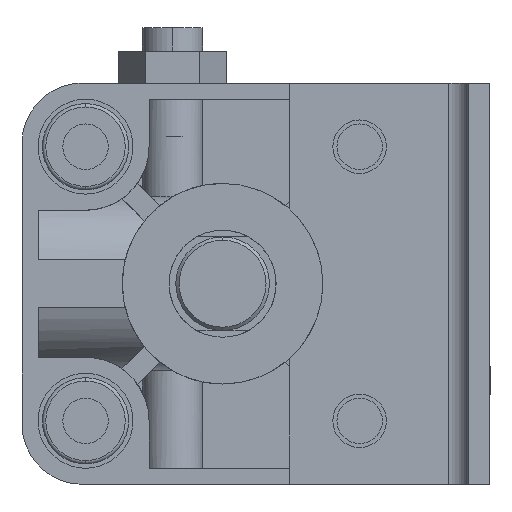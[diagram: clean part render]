
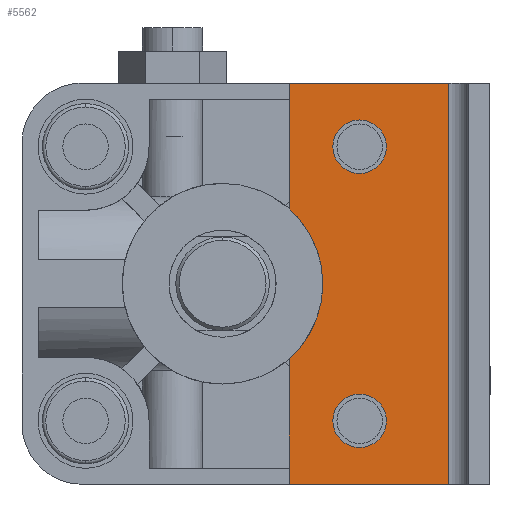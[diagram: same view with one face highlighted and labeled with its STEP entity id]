
A CAD part, left-side view. The second image highlights one B-rep face of the part: STEP entity #5562.
In plain terms, the highlighted planar face has unit normal (-1, 0, 0) as drawn and (0, 0, 1) by its records, which use the part's own axes.
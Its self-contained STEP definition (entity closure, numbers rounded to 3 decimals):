
#53 = CARTESIAN_POINT ( 'NONE',  ( -30., -33.8, 0. ) ) ;
#101 = EDGE_CURVE ( 'NONE', #4875, #2804, #6808, .T. ) ;
#510 = CARTESIAN_POINT ( 'NONE',  ( -11.18, -10., 0. ) ) ;
#517 = CARTESIAN_POINT ( 'NONE',  ( -30., -33.8, 0. ) ) ;
#560 = ORIENTED_EDGE ( 'NONE', *, *, #2899, .T. ) ;
#629 = ORIENTED_EDGE ( 'NONE', *, *, #4731, .T. ) ;
#644 = VECTOR ( 'NONE', #3964, 1000. ) ;
#752 = AXIS2_PLACEMENT_3D ( 'NONE', #2877, #6826, #5335 ) ;
#830 = VECTOR ( 'NONE', #6050, 1000. ) ;
#886 = DIRECTION ( 'NONE',  ( 1., 0., 0. ) ) ;
#927 = CARTESIAN_POINT ( 'NONE',  ( -20.5, -20.5, 0. ) ) ;
#948 = CARTESIAN_POINT ( 'NONE',  ( 30., -25., 0. ) ) ;
#985 = AXIS2_PLACEMENT_3D ( 'NONE', #4744, #5299, #5156 ) ;
#1109 = EDGE_CURVE ( 'NONE', #6462, #5434, #6154, .T. ) ;
#1360 = DIRECTION ( 'NONE',  ( 0., 0., 1. ) ) ;
#1429 = DIRECTION ( 'NONE',  ( -1., 0., 0. ) ) ;
#1640 = VERTEX_POINT ( 'NONE', #8406 ) ;
#1643 = DIRECTION ( 'NONE',  ( 1., 0., 0. ) ) ;
#1765 = LINE ( 'NONE', #3088, #3114 ) ;
#2164 = ORIENTED_EDGE ( 'NONE', *, *, #7354, .T. ) ;
#2347 = DIRECTION ( 'NONE',  ( -1., 0., 0. ) ) ;
#2360 = EDGE_CURVE ( 'NONE', #3686, #7482, #7573, .T. ) ;
#2367 = CIRCLE ( 'NONE', #752, 15. ) ;
#2400 = VERTEX_POINT ( 'NONE', #510 ) ;
#2599 = CARTESIAN_POINT ( 'NONE',  ( 16.5, -20.5, 0. ) ) ;
#2736 = CIRCLE ( 'NONE', #6934, 4. ) ;
#2804 = VERTEX_POINT ( 'NONE', #2599 ) ;
#2877 = CARTESIAN_POINT ( 'NONE',  ( 0., 0., 0. ) ) ;
#2899 = EDGE_CURVE ( 'NONE', #2400, #5434, #7262, .T. ) ;
#3088 = CARTESIAN_POINT ( 'NONE',  ( 0., -10., 0. ) ) ;
#3114 = VECTOR ( 'NONE', #3663, 1000. ) ;
#3352 = VERTEX_POINT ( 'NONE', #5635 ) ;
#3384 = CARTESIAN_POINT ( 'NONE',  ( 0., -33.8, 0. ) ) ;
#3431 = CARTESIAN_POINT ( 'NONE',  ( -30., -10., 0. ) ) ;
#3657 = EDGE_LOOP ( 'NONE', ( #6476, #5548 ) ) ;
#3663 = DIRECTION ( 'NONE',  ( -1., 0., 0. ) ) ;
#3686 = VERTEX_POINT ( 'NONE', #8546 ) ;
#3964 = DIRECTION ( 'NONE',  ( 0., 1., 0. ) ) ;
#4095 = EDGE_LOOP ( 'NONE', ( #629, #560, #5280, #4348, #8413, #2164 ) ) ;
#4318 = CARTESIAN_POINT ( 'NONE',  ( 30., -33.8, 0. ) ) ;
#4348 = ORIENTED_EDGE ( 'NONE', *, *, #8765, .F. ) ;
#4459 = FACE_BOUND ( 'NONE', #9001, .T. ) ;
#4731 = EDGE_CURVE ( 'NONE', #1640, #2400, #2367, .T. ) ;
#4744 = CARTESIAN_POINT ( 'NONE',  ( 20.5, -20.5, 0. ) ) ;
#4807 = DIRECTION ( 'NONE',  ( 0., 0., 1. ) ) ;
#4875 = VERTEX_POINT ( 'NONE', #5186 ) ;
#4967 = LINE ( 'NONE', #3384, #6794 ) ;
#5109 = EDGE_CURVE ( 'NONE', #2804, #4875, #2736, .T. ) ;
#5156 = DIRECTION ( 'NONE',  ( 1., 0., 0. ) ) ;
#5186 = CARTESIAN_POINT ( 'NONE',  ( 24.5, -20.5, 0. ) ) ;
#5279 = CARTESIAN_POINT ( 'NONE',  ( -20.5, -20.5, 0. ) ) ;
#5280 = ORIENTED_EDGE ( 'NONE', *, *, #1109, .F. ) ;
#5299 = DIRECTION ( 'NONE',  ( 0., 0., 1. ) ) ;
#5311 = FACE_OUTER_BOUND ( 'NONE', #4095, .T. ) ;
#5335 = DIRECTION ( 'NONE',  ( 1., 0., 0. ) ) ;
#5424 = CARTESIAN_POINT ( 'NONE',  ( -30., -25., 0. ) ) ;
#5434 = VERTEX_POINT ( 'NONE', #3431 ) ;
#5544 = EDGE_CURVE ( 'NONE', #3352, #7679, #8373, .T. ) ;
#5548 = ORIENTED_EDGE ( 'NONE', *, *, #5109, .F. ) ;
#5562 = ADVANCED_FACE ( 'NONE', ( #4459, #7926, #5311 ), #8524, .T. ) ;
#5635 = CARTESIAN_POINT ( 'NONE',  ( 30., -10., 0. ) ) ;
#5962 = CARTESIAN_POINT ( 'NONE',  ( 0., -10., 0. ) ) ;
#5972 = AXIS2_PLACEMENT_3D ( 'NONE', #5279, #1360, #6482 ) ;
#6050 = DIRECTION ( 'NONE',  ( 0., -1., 0. ) ) ;
#6154 = LINE ( 'NONE', #5424, #644 ) ;
#6164 = DIRECTION ( 'NONE',  ( 0., 0., 1. ) ) ;
#6325 = CARTESIAN_POINT ( 'NONE',  ( -16.5, -20.5, 0. ) ) ;
#6417 = VECTOR ( 'NONE', #1429, 1000. ) ;
#6462 = VERTEX_POINT ( 'NONE', #53 ) ;
#6476 = ORIENTED_EDGE ( 'NONE', *, *, #101, .F. ) ;
#6482 = DIRECTION ( 'NONE',  ( 1., 0., 0. ) ) ;
#6653 = DIRECTION ( 'NONE',  ( 0., 0., 1. ) ) ;
#6690 = AXIS2_PLACEMENT_3D ( 'NONE', #927, #6164, #1643 ) ;
#6794 = VECTOR ( 'NONE', #2347, 1000. ) ;
#6808 = CIRCLE ( 'NONE', #985, 4. ) ;
#6826 = DIRECTION ( 'NONE',  ( 0., 0., -1. ) ) ;
#6922 = ORIENTED_EDGE ( 'NONE', *, *, #8584, .F. ) ;
#6934 = AXIS2_PLACEMENT_3D ( 'NONE', #8308, #4807, #886 ) ;
#7262 = LINE ( 'NONE', #5962, #6417 ) ;
#7354 = EDGE_CURVE ( 'NONE', #3352, #1640, #1765, .T. ) ;
#7424 = ORIENTED_EDGE ( 'NONE', *, *, #2360, .F. ) ;
#7482 = VERTEX_POINT ( 'NONE', #6325 ) ;
#7573 = CIRCLE ( 'NONE', #5972, 4. ) ;
#7673 = AXIS2_PLACEMENT_3D ( 'NONE', #517, #6653, #8962 ) ;
#7679 = VERTEX_POINT ( 'NONE', #4318 ) ;
#7926 = FACE_BOUND ( 'NONE', #3657, .T. ) ;
#8273 = CIRCLE ( 'NONE', #6690, 4. ) ;
#8308 = CARTESIAN_POINT ( 'NONE',  ( 20.5, -20.5, 0. ) ) ;
#8373 = LINE ( 'NONE', #948, #830 ) ;
#8406 = CARTESIAN_POINT ( 'NONE',  ( 11.18, -10., 0. ) ) ;
#8413 = ORIENTED_EDGE ( 'NONE', *, *, #5544, .F. ) ;
#8524 = PLANE ( 'NONE',  #7673 ) ;
#8546 = CARTESIAN_POINT ( 'NONE',  ( -24.5, -20.5, 0. ) ) ;
#8584 = EDGE_CURVE ( 'NONE', #7482, #3686, #8273, .T. ) ;
#8765 = EDGE_CURVE ( 'NONE', #7679, #6462, #4967, .T. ) ;
#8962 = DIRECTION ( 'NONE',  ( 1., 0., 0. ) ) ;
#9001 = EDGE_LOOP ( 'NONE', ( #6922, #7424 ) ) ;
